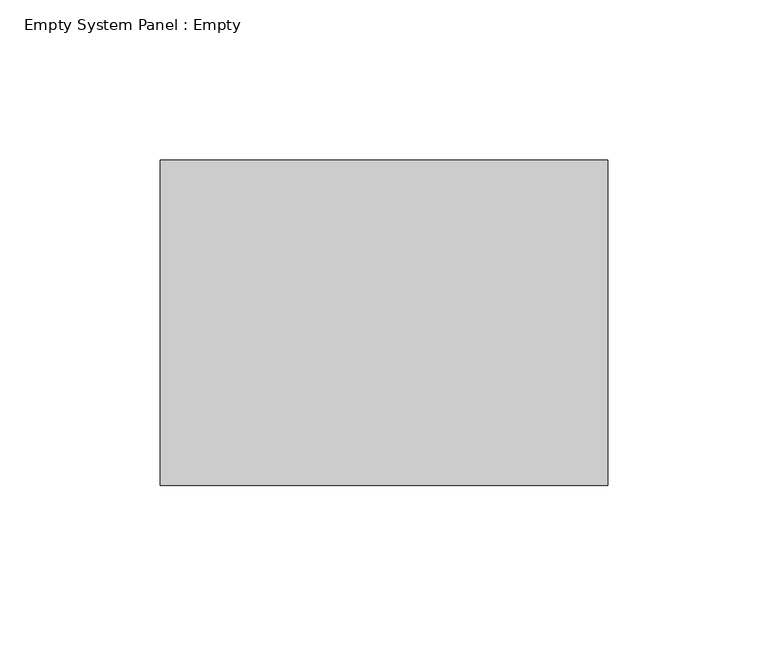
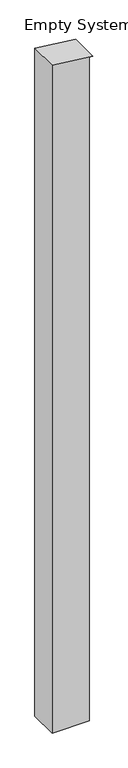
"""IFC4 building model written with IfcOpenShell, lengths in millimetres: plate geometry, Empty System Panel : Empty."""

import ifcopenshell
import ifcopenshell.guid

model = None  # the IFC model being written
_history = None  # IfcOwnerHistory: only IFC2X3 demands one
_inside = {}  # id of a spatial element -> (the spatial element, [elements in it])
_under = {}  # id of a project, library or spatial element -> (it, [spatial elements below it])
_declared = {}  # id of a project -> (the project, [libraries it declares])
_typed = {}  # id of a type object -> (the type object, [elements of that type])
_made_of = {}  # id of a material, layer set ... -> (it, [elements and type objects made of it])


def new_model(schema):
    """Start an empty IFC model of exactly this schema.

    Asked for "IFC4X3", IfcOpenShell would pick the latest addendum, in which some entities
    have other attributes; the version numbers below select the first issue.
    IFC2X3 requires an IfcOwnerHistory on every rooted entity: one is made here for all.
    """
    global model, _history
    if schema == "IFC4X3":
        model = ifcopenshell.file(schema_version=(4, 3, 0, 0))
    else:
        model = ifcopenshell.file(schema=schema)
    _inside.clear()
    _under.clear()
    _declared.clear()
    _typed.clear()
    _made_of.clear()
    _history = None
    if model.schema == "IFC2X3":
        org = make("IfcOrganization", Name="unknown")
        user = make(
            "IfcPersonAndOrganization",
            ThePerson=make("IfcPerson", FamilyName="unknown"),
            TheOrganization=org,
        )
        app = make(
            "IfcApplication",
            ApplicationDeveloper=org,
            Version="unknown",
            ApplicationFullName="unknown",
            ApplicationIdentifier="unknown",
        )
        _history = make(
            "IfcOwnerHistory",
            OwningUser=user,
            OwningApplication=app,
            ChangeAction="ADDED",
            CreationDate=0,
        )
    return model


def make(cls, **values):
    """One entity of the class cls with the attributes given. An attribute that is None is left unset."""
    return model.create_entity(
        cls, **{name: value for name, value in values.items() if value is not None}
    )


def rooted(cls, **values):
    """An entity with a GlobalId (a new one), such as an element, a storey or a relation."""
    return make(cls, GlobalId=ifcopenshell.guid.new(), OwnerHistory=_history, **values)


def si_unit(unit_type, name, prefix=None):
    """IfcSIUnit, for example si_unit("LENGTHUNIT", "METRE", prefix="MILLI")."""
    return make("IfcSIUnit", UnitType=unit_type, Prefix=prefix, Name=name)


def assignment(units):
    """IfcUnitAssignment: the units of a project."""
    return None if units is None else make("IfcUnitAssignment", Units=units)


def point(xyz):
    """IfcCartesianPoint."""
    return None if xyz is None else make("IfcCartesianPoint", Coordinates=xyz)


def direction(xyz):
    """IfcDirection."""
    return None if xyz is None else make("IfcDirection", DirectionRatios=xyz)


def frame(location, z_axis=None, x_axis=None):
    """IfcAxis2Placement3D, a coordinate frame: its origin and axes. An axis left out is left unset."""
    return make(
        "IfcAxis2Placement3D",
        Location=point(location),
        Axis=direction(z_axis),
        RefDirection=direction(x_axis),
    )


def origin():
    """The frame at (0, 0, 0) with its axes left unset."""
    return frame((0.0, 0.0, 0.0))


def place(relative_to, where):
    """IfcLocalPlacement: puts the frame where relative to a parent placement (None: the world)."""
    return make(
        "IfcLocalPlacement", PlacementRelTo=relative_to, RelativePlacement=where
    )


def context(
    kind, dimensions, precision=None, world=None, true_north=None, identifier=None
):
    """IfcGeometricRepresentationContext, for example the 3D "Model" context."""
    return make(
        "IfcGeometricRepresentationContext",
        ContextIdentifier=identifier,
        ContextType=kind,
        CoordinateSpaceDimension=dimensions,
        Precision=precision,
        WorldCoordinateSystem=world,
        TrueNorth=true_north,
    )


def project(units=None, contexts=None):
    """IfcProject with its units and contexts."""
    return rooted(
        "IfcProject",
        Name="project",
        RepresentationContexts=contexts,
        UnitsInContext=assignment(units),
    )


def spatial(cls, under=None, at=None, **own):
    """A site, building, storey or space (cls), placed at a placement, below another one or the project."""
    s = rooted(cls, ObjectPlacement=at, **own)
    if under is not None:
        _under.setdefault(under.id(), (under, []))[1].append(s)
    return s


def polyline(points):
    """IfcPolyline through the points."""
    return make("IfcPolyline", Points=[point(p) for p in points])


def outline(outer, holes=None, kind="AREA"):
    """IfcArbitraryClosedProfileDef: a profile drawn as a closed curve; with holes, ...WithVoids."""
    if holes is None:
        return make("IfcArbitraryClosedProfileDef", ProfileType=kind, OuterCurve=outer)
    return make(
        "IfcArbitraryProfileDefWithVoids",
        ProfileType=kind,
        OuterCurve=outer,
        InnerCurves=holes,
    )


def extrude(swept, where, along, depth):
    """IfcExtrudedAreaSolid: the profile swept, set in the frame where, extruded along a direction by depth."""
    return make(
        "IfcExtrudedAreaSolid",
        SweptArea=swept,
        Position=where,
        ExtrudedDirection=direction(along),
        Depth=depth,
    )


def shape(context_of_items, identifier, shape_type, items):
    """IfcShapeRepresentation: the items that make up one representation, for example the "Body"."""
    return make(
        "IfcShapeRepresentation",
        ContextOfItems=context_of_items,
        RepresentationIdentifier=identifier,
        RepresentationType=shape_type,
        Items=items,
    )


def source(mapping_origin, context_of_items, identifier, shape_type, items):
    """IfcRepresentationMap: a shape defined once, which mapped items show again and again."""
    return make(
        "IfcRepresentationMap",
        MappingOrigin=mapping_origin,
        MappedRepresentation=shape(context_of_items, identifier, shape_type, items),
    )


def transform(
    local_origin,
    x_axis=None,
    y_axis=None,
    z_axis=None,
    scale=None,
    scale2=None,
    scale3=None,
    uniform=True,
):
    """IfcCartesianTransformationOperator3D, or its non-uniform kind. x_axis, y_axis, z_axis: its Axis1, 2, 3."""
    if uniform:
        return make(
            "IfcCartesianTransformationOperator3D",
            Axis1=direction(x_axis),
            Axis2=direction(y_axis),
            LocalOrigin=point(local_origin),
            Scale=scale,
            Axis3=direction(z_axis),
        )
    return make(
        "IfcCartesianTransformationOperator3DnonUniform",
        Axis1=direction(x_axis),
        Axis2=direction(y_axis),
        LocalOrigin=point(local_origin),
        Scale=scale,
        Axis3=direction(z_axis),
        Scale2=scale2,
        Scale3=scale3,
    )


def mapped(mapping_source, mapping_target):
    """IfcMappedItem: shows the shape of a source again, moved by a transform."""
    return make(
        "IfcMappedItem", MappingSource=mapping_source, MappingTarget=mapping_target
    )


def made_of(thing, what):
    """Note that an element or type object is made of a material, layer set ...; save() writes the relation."""
    if what is not None:
        _made_of.setdefault(what.id(), (what, []))[1].append(thing)
    return thing


def element(
    cls,
    number,
    at=None,
    inside=None,
    cuts=None,
    type_object=None,
    material=None,
    context=None,
    identifier="Body",
    shape_type=None,
    held_by="IfcProductDefinitionShape",
    body=None,
    shapes=None,
    **own,
):
    """One element of the class cls, such as IfcWall. Its Tag is "e" and its number.

    at: its placement. inside: the storey or other place that contains it. cuts: it is an
    opening in that element (IfcRelVoidsElement). A single representation is given by context,
    identifier, shape_type and body (its items); several are given by shapes. held_by: the class
    of the entity that holds the representations. save() writes the other relations.
    """
    e = rooted(cls, Tag="e%d" % number, ObjectPlacement=at, **own)
    if body is not None:
        shapes = [shape(context, identifier, shape_type, body)]
    if shapes is not None:
        e.Representation = make(held_by, Representations=shapes)
    if inside is not None:
        _inside.setdefault(inside.id(), (inside, []))[1].append(e)
    if cuts is not None:
        rooted(
            "IfcRelVoidsElement", RelatingBuildingElement=cuts, RelatedOpeningElement=e
        )
    if type_object is not None:
        _typed.setdefault(type_object.id(), (type_object, []))[1].append(e)
    return made_of(e, material)


def aggregate(whole, parts):
    """IfcRelAggregates: a whole, such as a stair, and the parts it consists of."""
    return rooted("IfcRelAggregates", RelatingObject=whole, RelatedObjects=parts)


def save(model, path):
    """Write the relations noted so far, then the file.

    IfcRelAggregates (storeys below a building ...), IfcRelContainedInSpatialStructure (elements
    in a storey), IfcRelDefinesByType, IfcRelAssociatesMaterial and IfcRelDeclares: one each for
    every whole, place, type object, material and project.
    """
    for whole, parts in _under.values():
        aggregate(whole, parts)
    for where, things in _inside.values():
        rooted(
            "IfcRelContainedInSpatialStructure",
            RelatedElements=things,
            RelatingStructure=where,
        )
    for kind, things in _typed.values():
        rooted("IfcRelDefinesByType", RelatedObjects=things, RelatingType=kind)
    for what, things in _made_of.values():
        rooted("IfcRelAssociatesMaterial", RelatedObjects=things, RelatingMaterial=what)
    for by, libraries in _declared.values():
        rooted("IfcRelDeclares", RelatingContext=by, RelatedDefinitions=libraries)
    model.write(path)


def empty_system_panel_empty_8a74db85(model_context):
    return source(origin(), model_context, "Body", "SweptSolid", [
        extrude(outline(polyline([(0.0, -69.85), (0.0, 57.15), (2400.4434545, 57.15), (2400.4434545, 69.85), (2416.0686445, -69.85), (0.0, -69.85)])), frame((0.0, -50.8, 0.0), z_axis=(0.0, 1.0, 0.0), x_axis=(0.0, 0.0, 1.0)), (0.0, 0.0, 1.0), 101.6),
    ])


if __name__ == "__main__":
    model = new_model("IFC4")
    model_context = context("Model", 3, world=origin())
    ifc_project = project(units=[si_unit("LENGTHUNIT", "METRE", prefix="MILLI")], contexts=[model_context])
    site = spatial("IfcSite", under=ifc_project)
    building = spatial("IfcBuilding", under=site)
    placement = place(None, origin())
    empty_system_panel_empty_shape = empty_system_panel_empty_8a74db85(model_context)
    element("IfcPlate", 1, ObjectType="Empty System Panel : Empty", at=placement, inside=building, context=model_context, shape_type="MappedRepresentation", body=[
        mapped(empty_system_panel_empty_shape, transform((0.0, 0.0, 0.0), x_axis=(1.0, 0.0, 0.0), y_axis=(0.0, 1.0, 0.0), z_axis=(0.0, 0.0, 1.0))),
    ])
    save(model, "model.ifc")
